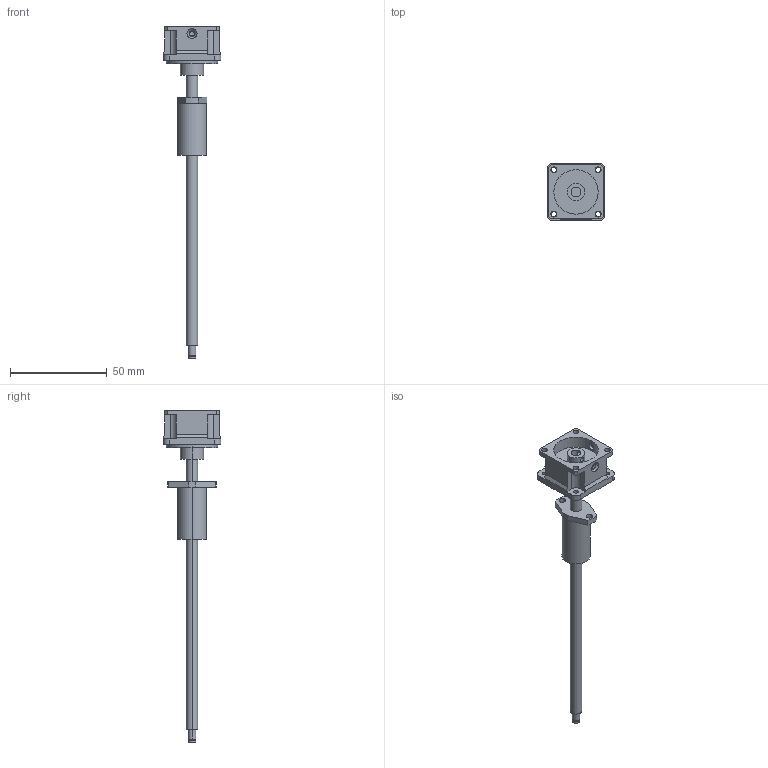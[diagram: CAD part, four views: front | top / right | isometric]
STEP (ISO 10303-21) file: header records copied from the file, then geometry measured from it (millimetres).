
FILE_DESCRIPTION (( 'STEP AP203' ), '1' );
FILE_NAME ('LA306A10.STEP', '2025-05-28T00:23:47', ( '' ), ( '' ), 'SwSTEP 2.0', 'SolidWorks 2023', '' );
FILE_SCHEMA (( 'CONFIG_CONTROL_DESIGN' ));
Length unit declared in the file: millimetre
Products named in the file (1): LA306A10
Bounding box: 30 x 30 x 172 mm (x, y, z)
Volume: 20191.5 mm3; surface area: 10647.1 mm2
Topology: 2 solids, 2 shells, 119 faces, 311 edges, 204 vertices
Faces by surface type: cylinder 66, plane 49, cone 4
Entity records: 4072 total; most frequent: CARTESIAN_POINT 907, DIRECTION 663, ORIENTED_EDGE 622, EDGE_CURVE 311, AXIS2_PLACEMENT_3D 244, VERTEX_POINT 204, LINE 175, VECTOR 175
